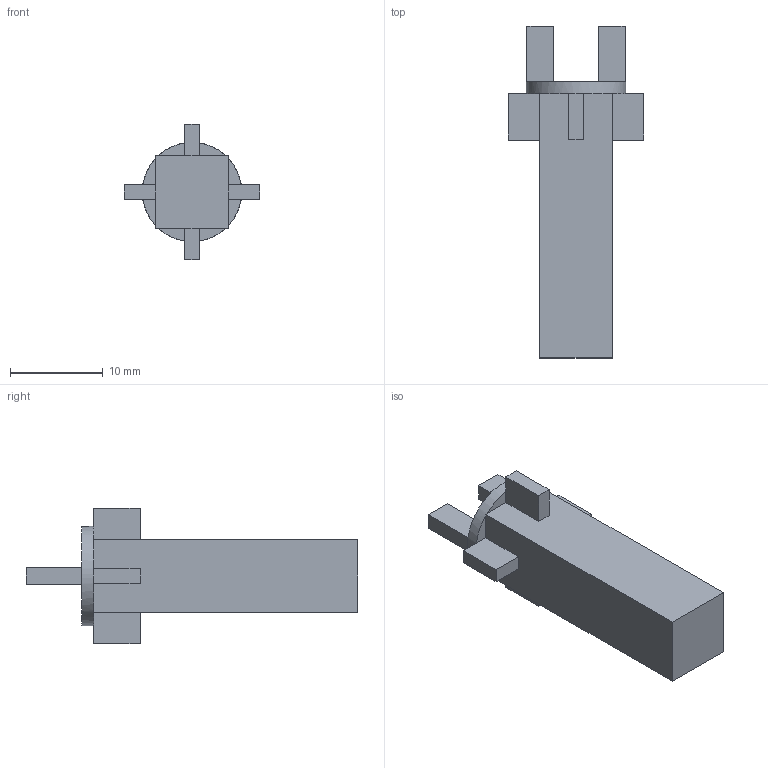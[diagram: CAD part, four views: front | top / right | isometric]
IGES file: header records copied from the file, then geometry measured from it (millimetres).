
Start section: Data from Parasolid IGES Translator 20.0.26, Copyright(c) 2006 Siemens P LM Software. All Rights Reserved.
Global section: file name: 9298862.igs; native system: By Siemens PLM Incorporated; preprocessor: XPlus GENERIC/IGES 20.0.26; author: Noname; organization: Noname; date: 20210825.160306; units: millimetre
Bounding box: 14.6 x 35.8 x 14.6 mm (x, y, z)
Surface area: 1387.2 mm2 (no closed solid volume)
Topology: 0 solids, 0 shells, 55 faces, 270 edges, 270 vertices
Faces by surface type: extrusion 54, revolution 1
